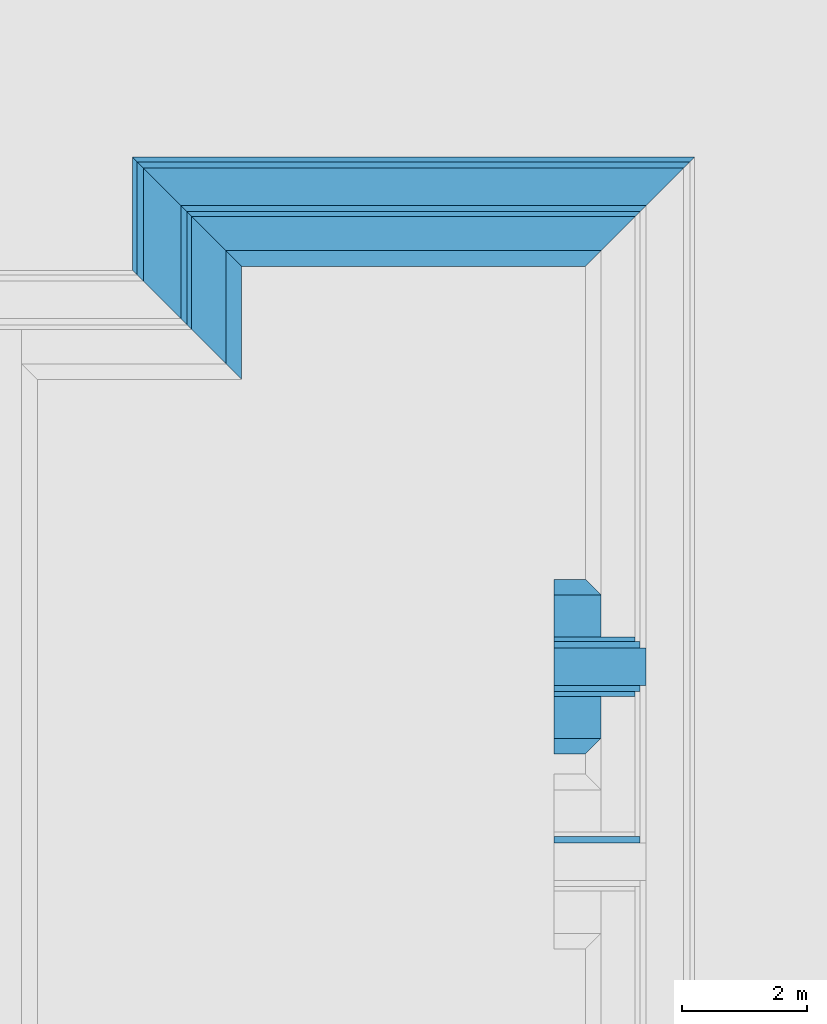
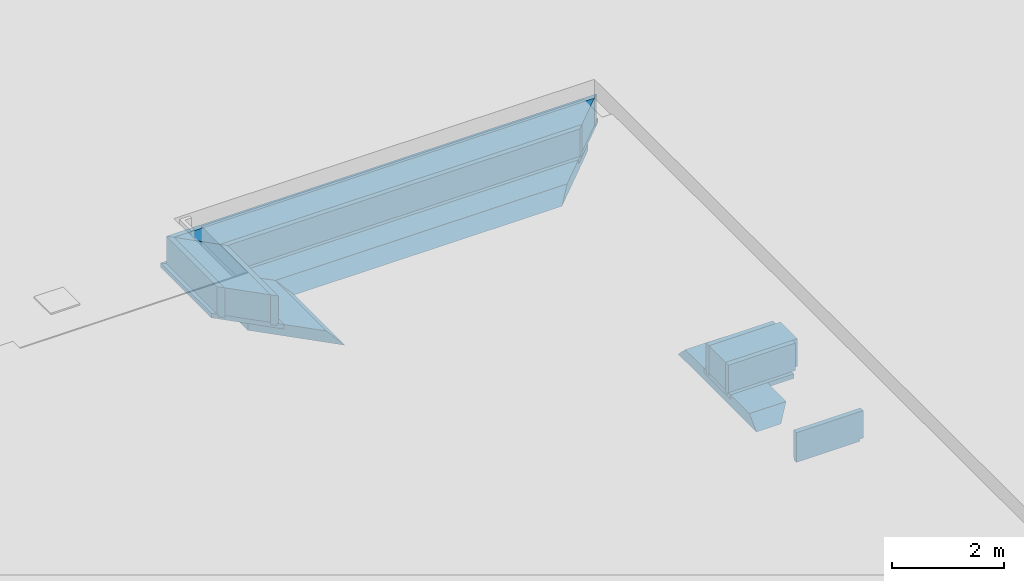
# One storey, part 14 of 15: 16 building element parts, 4 elements without a shape of their own.
"""IFC2X3 building model written with IfcOpenShell, lengths in millimetres."""

from ifc_helpers import new_model, entity, si_unit, converted_unit, derived_unit, money_unit, direction, frame, origin_with_axes, place, context, subcontext, project, spatial, faceted_brep, material, type_object, element, aggregate, save


model = new_model("IFC2X3")

# Units and contexts
model_context = context("Model", 3, precision=0.01, world=origin_with_axes(), true_north=direction((0.0, 1.0)))
plan_context = context("Plan", 3, precision=0.01, world=origin_with_axes(), true_north=direction((0.0, 1.0)))
body_context = subcontext(model_context, "Body", "Model", "MODEL_VIEW")
ifc_project = project(units=[si_unit("LENGTHUNIT", "METRE", prefix="MILLI"), si_unit("AREAUNIT", "SQUARE_METRE"), si_unit("VOLUMEUNIT", "CUBIC_METRE"), converted_unit("PLANEANGLEUNIT", "DEGREE", entity("IfcPlaneAngleMeasure", 0.0174532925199), si_unit("PLANEANGLEUNIT", "RADIAN"), dimensions=[0, 0, 0, 0, 0, 0, 0]), money_unit("EUR"), converted_unit("TIMEUNIT", "Year", entity("IfcTimeMeasure", 31556926.0), si_unit("TIMEUNIT", "SECOND"), dimensions=[0, 0, 1, 0, 0, 0, 0]), si_unit("MASSUNIT", "GRAM", prefix="KILO"), si_unit("THERMODYNAMICTEMPERATUREUNIT", "DEGREE_CELSIUS"), si_unit("LUMINOUSINTENSITYUNIT", "LUMEN"), si_unit("ENERGYUNIT", "JOULE", prefix="MEGA"), derived_unit("THERMALCONDUCTANCEUNIT", [(si_unit("POWERUNIT", "WATT"), 1), (si_unit("LENGTHUNIT", "METRE"), -1), (si_unit("THERMODYNAMICTEMPERATUREUNIT", "KELVIN"), -1)]), derived_unit("SPECIFICHEATCAPACITYUNIT", [(si_unit("ENERGYUNIT", "JOULE"), 1), (si_unit("MASSUNIT", "GRAM", prefix="KILO"), -1), (si_unit("THERMODYNAMICTEMPERATUREUNIT", "KELVIN"), -1)]), derived_unit("MASSDENSITYUNIT", [(si_unit("MASSUNIT", "GRAM", prefix="KILO"), 1), (si_unit("VOLUMEUNIT", "CUBIC_METRE"), -1)])], contexts=[model_context, plan_context])

# Site, building, storey
site_placement = place(None, origin_with_axes())
site = spatial("IfcSite", under=ifc_project, at=site_placement, Name="Site", CompositionType="ELEMENT")
building_placement = place(site_placement, origin_with_axes())
building = spatial("IfcBuilding", under=site, at=building_placement, Name="Naam gebouw", CompositionType="ELEMENT")
storey_placement = place(building_placement, frame((0.0, 0.0, -1050.0), z_axis=(0.0, 0.0, 1.0), x_axis=(1.0, 0.0, 0.0)))
storey = spatial("IfcBuildingStorey", under=building, at=storey_placement, Name="fundering", CompositionType="ELEMENT", Elevation=-1050.0)

# Beam, building element parts
beam_type_1 = type_object("IfcBeamType", Name="Fundering balk IsoBouw Powerkist 2800 x 850", PredefinedType="BEAM")
beam_1_placement = place(storey_placement, frame((54225.0, 39325.0, -60.0000017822), z_axis=(0.0, 0.0, 1.0), x_axis=(0.0, -1.0, 0.0)))
beam_1 = element("IfcBeam", 1, at=beam_1_placement, inside=storey, type_object=beam_type_1, Name="28_Balk-x", ObjectType="BEAM")
ifc_material_1 = material(Name="ALG - TERREIN")
building_element_part_1_placement = place(beam_1_placement, origin_with_axes())
building_element_part_1 = element("IfcBuildingElementPart", 2, at=building_element_part_1_placement, material=ifc_material_1, Name="ALG - TERREIN", context=body_context, shape_type="Brep", body=[
    faceted_brep([(-475.000395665, 754.999964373, 1.98214333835e-07), (-1150.00039795, 754.999964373, -6.16378281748e-07), (-1150.00039795, 0.0, -1.92126834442e-05), (-475.000395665, 0.0, 2.25106189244e-05), (-1400.00037562, 504.999974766, -249.999996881), (-475.000395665, 654.99996234, -100.000009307), (475.000395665, 654.99996234, -100.000009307), (475.000395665, 754.999964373, 1.34467881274e-06), (1150.00039795, 754.999964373, 2.15927142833e-06), (1400.00037562, 504.999974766, -249.999996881), (-1400.00037562, 0.0, -249.999996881), (1400.00037562, 0.0, -249.999996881), (1150.00039795, 0.0, -1.92126834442e-05), (475.000395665, 0.0, 2.25106189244e-05), (475.000395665, 0.0, -100.00001028), (-475.000395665, 0.0, -100.00001028)], [[[0, 1, 2, 3]], [[4, 1, 0, 5, 6, 7, 8, 9]], [[1, 4, 10, 2]], [[11, 12, 13, 14, 15, 3, 2, 10]], [[5, 0, 3, 15]], [[6, 5, 15, 14]], [[7, 6, 14, 13]], [[8, 7, 13, 12]], [[9, 8, 12, 11]], [[4, 9, 11, 10]]]),
])
ifc_material_2 = material(Name="Isolatie - EPS")
building_element_part_2_placement = place(beam_1_placement, origin_with_axes())
building_element_part_2 = element("IfcBuildingElementPart", 3, at=building_element_part_2_placement, material=ifc_material_2, Name="Isolatie - EPS", context=body_context, shape_type="Brep", body=[
    faceted_brep([(-400.000361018, 1304.99997477, 7.15338899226e-07), (-475.000375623, 1304.99997477, 7.15338899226e-07), (-475.000375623, 0.0, 8.43651903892e-06), (-400.000361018, 0.0, 8.43651903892e-06), (-475.000375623, 1304.99997477, -99.9999968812), (-380.000371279, 1304.99997477, 7.15338899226e-07), (-380.000371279, 1304.99997477, -49.0824435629), (-300.000369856, 1304.99997477, -49.0824435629), (-300.000369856, 1304.99997477, 7.15338899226e-07), (300.000369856, 1304.99997477, 7.15338899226e-07), (300.000369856, 1304.99997477, -49.0824435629), (380.000371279, 1304.99997477, -49.0824435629), (380.000371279, 1304.99997477, 7.15338899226e-07), (400.000361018, 1304.99997477, 7.15338899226e-07), (475.000375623, 1304.99997477, 7.15338899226e-07), (475.000375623, 1304.99997477, -99.9999968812), (-475.000375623, 0.0, -99.9999968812), (475.000375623, 0.0, 8.43651926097e-06), (400.000361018, 0.0, 8.43651903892e-06), (380.000371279, 0.0, 8.43651903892e-06), (380.000371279, 0.0, -49.0824435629), (300.000369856, 0.0, -49.0824435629), (300.000369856, 0.0, 8.43651903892e-06), (-300.000369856, 0.0, 8.43651903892e-06), (-300.000369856, 0.0, -49.0824435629), (-380.000371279, 0.0, -49.0824435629), (-380.000371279, 0.0, 8.43651903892e-06), (475.000375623, 0.0, -99.9999968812)], [[[0, 1, 2, 3]], [[4, 1, 0, 5, 6, 7, 8, 9, 10, 11, 12, 13, 14, 15]], [[1, 4, 16, 2]], [[17, 18, 19, 20, 21, 22, 23, 24, 25, 26, 3, 2, 16, 27]], [[5, 0, 3, 26]], [[6, 5, 26, 25]], [[7, 6, 25, 24]], [[8, 7, 24, 23]], [[9, 8, 23, 22]], [[10, 9, 22, 21]], [[11, 10, 21, 20]], [[12, 11, 20, 19]], [[13, 12, 19, 18]], [[14, 13, 18, 17]], [[15, 14, 17, 27]], [[4, 15, 27, 16]]]),
])
building_element_part_3_placement = place(beam_1_placement, origin_with_axes())
building_element_part_3 = element("IfcBuildingElementPart", 4, at=building_element_part_3_placement, material=ifc_material_2, Name="Isolatie - EPS", context=body_context, shape_type="Brep", body=[
    faceted_brep([(-300.00036966, 0.0, 600.000004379), (-300.00036966, 1379.99998712, 600.000000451), (-400.000366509, 1379.99998712, 600.000000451), (-400.000366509, 0.0, 600.000004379), (-300.00036966, 1304.99997477, 7.15338899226e-07), (-300.00036966, 1379.99998712, 7.15338899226e-07), (-300.00036966, 0.0, -49.0824424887), (-300.00036966, 1304.99997477, -49.0824424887), (-400.000366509, 1379.99998712, 7.15338899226e-07), (-400.000366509, 0.0, 2.4249691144e-06), (-380.000369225, 0.0, 2.4249691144e-06), (-380.000369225, 0.0, -49.0824424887), (-380.000369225, 1304.99997477, 7.15338899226e-07), (-380.000369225, 1304.99997477, -49.0824424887)], [[[0, 1, 2, 3]], [[4, 5, 1, 0, 6, 7]], [[5, 8, 2, 1]], [[3, 2, 8, 9]], [[6, 0, 3, 9, 10, 11]], [[9, 8, 5, 4, 12, 10]], [[11, 13, 7, 6]], [[7, 13, 12, 4]], [[10, 12, 13, 11]]]),
])
building_element_part_4_placement = place(beam_1_placement, origin_with_axes())
building_element_part_4 = element("IfcBuildingElementPart", 5, at=building_element_part_4_placement, material=ifc_material_2, Name="Isolatie - EPS", context=body_context, shape_type="Brep", body=[
    faceted_brep([(400.000366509, 0.0, 600.000004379), (400.000366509, 1379.99998712, 600.000000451), (300.00036966, 1379.99998712, 600.000000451), (300.00036966, 0.0, 600.000004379), (400.000366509, 0.0, 2.4249691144e-06), (400.000366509, 1379.99998712, 7.15338899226e-07), (300.00036966, 1379.99998712, 7.15338899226e-07), (300.00036966, 1304.99997477, 7.15338899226e-07), (300.00036966, 1304.99997477, -49.0824424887), (300.00036966, 0.0, -49.0824424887), (380.000369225, 0.0, -49.0824424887), (380.000369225, 0.0, 2.4249691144e-06), (380.000369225, 1304.99997477, 7.15338899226e-07), (380.000369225, 1304.99997477, -49.0824424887)], [[[0, 1, 2, 3]], [[4, 5, 1, 0]], [[5, 6, 2, 1]], [[6, 7, 8, 9, 3, 2]], [[10, 11, 4, 0, 3, 9]], [[7, 6, 5, 4, 11, 12]], [[13, 8, 7, 12]], [[9, 8, 13, 10]], [[10, 13, 12, 11]]]),
])
ifc_material_3 = material(Name="Beton gewapend C")
building_element_part_5_placement = place(beam_1_placement, origin_with_axes())
building_element_part_5 = element("IfcBuildingElementPart", 6, at=building_element_part_5_placement, material=ifc_material_3, Name="Beton gewapend C", context=body_context, shape_type="Brep", body=[
    faceted_brep([(300.000372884, 0.0, 600.0), (300.000372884, 1479.99997751, 600.000001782), (-300.000372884, 1479.99997751, 600.000001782), (-300.000372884, 0.0, 600.0), (300.000372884, 0.0, 0.0), (300.000372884, 1479.99997751, 1.78216552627e-06), (-300.000372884, 1479.99997751, 1.78216552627e-06), (-300.000372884, 0.0, 0.0)], [[[0, 1, 2, 3]], [[4, 5, 1, 0]], [[5, 6, 2, 1]], [[3, 2, 6, 7]], [[3, 7, 4, 0]], [[7, 6, 5, 4]]]),
])
aggregate(beam_1, [building_element_part_1, building_element_part_2, building_element_part_3, building_element_part_4, building_element_part_5])

beam_type_2 = type_object("IfcBeamType", Name="Fundering balk IsoBouw Powerkist buitenwand 1750 x 850", PredefinedType="BEAM")
beam_2_placement = place(storey_placement, frame((47924.9996272, 47036.9930537, -60.0000017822), z_axis=(0.0, 0.0, 1.0), x_axis=(8.39208285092e-07, -1.0, 0.0)))
beam_2 = element("IfcBeam", 7, at=beam_2_placement, inside=storey, type_object=beam_type_2, Name="28_Balk-x", ObjectType="BEAM")
building_element_part_6_placement = place(beam_2_placement, origin_with_axes())
building_element_part_6 = element("IfcBuildingElementPart", 8, at=building_element_part_6_placement, material=ifc_material_1, Name="ALG - TERREIN", context=body_context, shape_type="Brep", body=[
    faceted_brep([(1045.00001313, 7054.99946016, -7.27431315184e-06), (495.000015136, 7604.99991972, -7.27431315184e-06), (495.000015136, 494.999726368, -7.27431315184e-06), (1045.00001313, 1044.99940351, -7.27431315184e-06), (1295.00000274, 6804.99926075, -249.999996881), (20.0000061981, 8080.00032728, -249.999996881), (20.0000061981, 8080.00032728, -99.9999926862), (495.000015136, 7604.99991972, -99.9999926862), (495.000015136, 494.999726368, -99.9999926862), (20.0000061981, 19.9999945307, -99.9999926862), (20.0000061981, 19.9999945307, -249.999996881), (1295.00000274, 1294.99924728, -249.999996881)], [[[0, 1, 2, 3]], [[0, 4, 5, 6, 7, 1]], [[1, 7, 8, 2]], [[3, 2, 8, 9, 10, 11]], [[4, 0, 3, 11]], [[5, 4, 11, 10]], [[6, 5, 10, 9]], [[7, 6, 9, 8]]]),
])
building_element_part_7_placement = place(beam_2_placement, origin_with_axes())
building_element_part_7 = element("IfcBuildingElementPart", 9, at=building_element_part_7_placement, material=ifc_material_2, Name="Isolatie - EPS", context=body_context, shape_type="Brep", body=[
    faceted_brep([(400.000002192, 7700.00001239, 7.15338899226e-07), (400.000002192, 7700.00001239, -49.0824410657), (400.000002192, 399.999768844, -49.0824410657), (400.000002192, 399.999768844, 7.15338899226e-07), (419.999990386, 7680.00000741, 7.15338899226e-07), (495.00000274, 7604.99993211, 7.15338899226e-07), (495.00000274, 7604.99993211, -99.9999968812), (20.0000061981, 8080.00032728, -99.9999926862), (-455.00000274, 8555.00073484, -99.9999968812), (-455.00000274, 8555.00073484, 7.15338899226e-07), (-379.999990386, 8480.00065955, 7.15338899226e-07), (-360.000002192, 8460.00065457, 7.15338899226e-07), (-360.000002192, 8460.00065457, -49.0824410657), (-279.99999279, 8380.00057803, -49.0824410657), (-279.99999279, 8380.00057803, 7.15338899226e-07), (319.99999279, 7780.00008892, 7.15338899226e-07), (319.99999279, 7780.00008892, -49.0824410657), (319.99999279, 319.999806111, -49.0824410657), (319.99999279, 319.999806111, 7.15338899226e-07), (-279.99999279, -279.999829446, 7.15338899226e-07), (-279.99999279, -279.999829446, -49.0824410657), (-360.000002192, -359.999792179, -49.0824410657), (-360.000002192, -359.999792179, 7.15338899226e-07), (-379.999990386, -379.999768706, 7.15338899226e-07), (-455.00000274, -454.999737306, 7.15338899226e-07), (-455.00000274, -454.999737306, -99.9999968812), (20.0000061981, 19.9999945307, -99.9999926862), (495.00000274, 494.999713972, -99.9999968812), (495.00000274, 494.999713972, 7.15338899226e-07), (419.999990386, 419.999745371, 7.15338899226e-07)], [[[0, 1, 2, 3]], [[0, 4, 5, 6, 7, 8, 9, 10, 11, 12, 13, 14, 15, 16, 1]], [[1, 16, 17, 2]], [[3, 2, 17, 18, 19, 20, 21, 22, 23, 24, 25, 26, 27, 28, 29]], [[4, 0, 3, 29]], [[5, 4, 29, 28]], [[6, 5, 28, 27]], [[7, 6, 27, 26]], [[8, 7, 26, 25]], [[9, 8, 25, 24]], [[10, 9, 24, 23]], [[11, 10, 23, 22]], [[12, 11, 22, 21]], [[13, 12, 21, 20]], [[14, 13, 20, 19]], [[15, 14, 19, 18]], [[16, 15, 18, 17]]]),
])
building_element_part_8_placement = place(beam_2_placement, origin_with_axes())
building_element_part_8 = element("IfcBuildingElementPart", 10, at=building_element_part_8_placement, material=ifc_material_2, Name="Isolatie - EPS", context=body_context, shape_type="Brep", body=[
    faceted_brep([(-379.999993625, 8480.00066279, 2.28759100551e-06), (-359.999996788, 8460.00064916, 2.28759100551e-06), (-359.999996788, -359.999786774, 2.28759100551e-06), (-379.999993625, -379.999771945, 2.28759100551e-06), (-379.999993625, 8480.00066279, 600.000001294), (-279.999999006, 8380.00058425, 600.000001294), (-279.999999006, 8380.00058425, -49.0824424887), (-359.999996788, 8460.00064916, -49.0824424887), (-359.999996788, -359.999786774, -49.0824424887), (-279.999999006, -279.999835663, -49.0824424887), (-279.999999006, -279.999835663, 600.000001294), (-379.999993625, -379.999771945, 600.000001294)], [[[0, 1, 2, 3]], [[0, 4, 5, 6, 7, 1]], [[1, 7, 8, 2]], [[3, 2, 8, 9, 10, 11]], [[4, 0, 3, 11]], [[5, 4, 11, 10]], [[6, 5, 10, 9]], [[7, 6, 9, 8]]]),
])
building_element_part_9_placement = place(beam_2_placement, origin_with_axes())
building_element_part_9 = element("IfcBuildingElementPart", 11, at=building_element_part_9_placement, material=ifc_material_2, Name="Isolatie - EPS", context=body_context, shape_type="Brep", body=[
    faceted_brep([(419.999993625, 419.99974861, 600.000003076), (419.999993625, 7680.00000417, 600.000003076), (319.999999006, 7780.00008271, 600.000003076), (319.999999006, 319.999812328, 600.000003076), (419.999993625, 419.99974861, 4.06975675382e-06), (419.999993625, 7680.00000417, 4.06975675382e-06), (399.999996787, 7700.00001779, 4.06975675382e-06), (399.999996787, 7700.00001779, -49.0824407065), (319.999999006, 7780.00008271, -49.0824407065), (319.999999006, 319.999812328, -49.0824407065), (399.999996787, 399.99976344, -49.0824407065), (399.999996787, 399.99976344, 4.06975675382e-06)], [[[0, 1, 2, 3]], [[4, 5, 1, 0]], [[2, 1, 5, 6, 7, 8]], [[3, 2, 8, 9]], [[4, 0, 3, 9, 10, 11]], [[11, 6, 5, 4]], [[10, 7, 6, 11]], [[9, 8, 7, 10]]]),
])
building_element_part_10_placement = place(beam_2_placement, origin_with_axes())
building_element_part_10 = element("IfcBuildingElementPart", 12, at=building_element_part_10_placement, material=ifc_material_3, Name="Beton gewapend C", context=body_context, shape_type="Brep", body=[
    faceted_brep([(320.0, 319.999813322, 600.000001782), (320.0, 7780.00008171, 600.000001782), (-280.0, 8380.00058524, 600.0), (-280.0, -279.999836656, 600.0), (320.0, 319.999813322, 1.78216552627e-06), (320.0, 7780.00008171, 1.78216552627e-06), (-280.0, 8380.00058524, 0.0), (-280.0, -279.999836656, 0.0)], [[[0, 1, 2, 3]], [[4, 5, 1, 0]], [[2, 1, 5, 6]], [[3, 2, 6, 7]], [[4, 0, 3, 7]], [[7, 6, 5, 4]]]),
])
aggregate(beam_2, [building_element_part_6, building_element_part_7, building_element_part_8, building_element_part_9, building_element_part_10])

# Beam, building element part
beam_3_placement = place(storey_placement, frame((54225.0, 36200.0, -60.0000017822), z_axis=(0.0, 0.0, 1.0), x_axis=(0.0, -1.0, 0.0)))
beam_3 = element("IfcBeam", 13, at=beam_3_placement, inside=storey, type_object=beam_type_1, Name="28_Balk-x", ObjectType="BEAM")
building_element_part_11_placement = place(beam_3_placement, origin_with_axes())
building_element_part_11 = element("IfcBuildingElementPart", 14, at=building_element_part_11_placement, material=ifc_material_2, Name="Isolatie - EPS", context=body_context, shape_type="Brep", body=[
    faceted_brep([(-300.00036966, 0.0, 600.000004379), (-300.00036966, 1379.99998712, 600.000000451), (-400.000366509, 1379.99998712, 600.000000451), (-400.000366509, 0.0, 600.000004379), (-300.00036966, 1304.99997477, 7.15338899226e-07), (-300.00036966, 1379.99998712, 7.15338899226e-07), (-300.00036966, 0.0, -49.0824424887), (-300.00036966, 1304.99997477, -49.0824424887), (-400.000366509, 1379.99998712, 7.15338899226e-07), (-400.000366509, 0.0, 2.4249691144e-06), (-380.000369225, 0.0, 2.4249691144e-06), (-380.000369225, 0.0, -49.0824424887), (-380.000369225, 1304.99997477, 7.15338899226e-07), (-380.000369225, 1304.99997477, -49.0824424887)], [[[0, 1, 2, 3]], [[4, 5, 1, 0, 6, 7]], [[5, 8, 2, 1]], [[3, 2, 8, 9]], [[6, 0, 3, 9, 10, 11]], [[9, 8, 5, 4, 12, 10]], [[11, 13, 7, 6]], [[7, 13, 12, 4]], [[10, 12, 13, 11]]]),
])
aggregate(beam_3, [building_element_part_11])

# Beam, building element parts
beam_4_placement = place(storey_placement, frame((47925.0001092, 45153.0, -60.0000017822), z_axis=(0.0, 0.0, 1.0), x_axis=(1.0, 2.55838259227e-07, 0.0)))
beam_4 = element("IfcBeam", 15, at=beam_4_placement, inside=storey, type_object=beam_type_2, Name="28_Balk-x", ObjectType="BEAM")
building_element_part_12_placement = place(beam_4_placement, origin_with_axes())
building_element_part_12 = element("IfcBuildingElementPart", 16, at=building_element_part_12_placement, material=ifc_material_1, Name="ALG - TERREIN", context=body_context, shape_type="Brep", body=[
    faceted_brep([(1045.00001313, 838.993650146, -7.27431315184e-06), (495.000015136, 1388.99332729, -7.27431315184e-06), (495.000015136, -425.000141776, -7.27431315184e-06), (1045.00001313, -975.000280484, -7.27431315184e-06), (1295.00000274, 588.993806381, -249.999996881), (20.0000061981, 1863.99305913, -249.999996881), (20.0000061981, 1863.99305913, -99.9999926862), (495.000015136, 1388.99332729, -99.9999926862), (495.000015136, -425.000141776, -99.9999926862), (20.0000061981, 49.9999886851, -99.9999926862), (20.0000061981, 49.9999886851, -249.999996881), (1295.00000274, -1225.00033405, -249.999996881)], [[[0, 1, 2, 3]], [[0, 4, 5, 6, 7, 1]], [[1, 7, 8, 2]], [[3, 2, 8, 9, 10, 11]], [[4, 0, 3, 11]], [[5, 4, 11, 10]], [[6, 5, 10, 9]], [[7, 6, 9, 8]]]),
])
building_element_part_13_placement = place(beam_4_placement, origin_with_axes())
building_element_part_13 = element("IfcBuildingElementPart", 17, at=building_element_part_13_placement, material=ifc_material_2, Name="Isolatie - EPS", context=body_context, shape_type="Brep", body=[
    faceted_brep([(400.000002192, 1483.99328481, 7.15338899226e-07), (400.000002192, 1483.99328481, -49.0824410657), (400.000002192, -330.000104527, -49.0824410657), (400.000002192, -330.000104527, 7.15338899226e-07), (419.999990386, 1463.99330829, 7.15338899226e-07), (495.00000274, 1388.99333969, 7.15338899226e-07), (495.00000274, 1388.99333969, -99.9999968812), (20.0000061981, 1863.99305913, -99.9999926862), (-455.00000274, 2338.99279096, -99.9999968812), (-455.00000274, 2338.99279096, 7.15338899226e-07), (-379.999990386, 2263.99282236, 7.15338899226e-07), (-360.000002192, 2243.99284584, 7.15338899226e-07), (-360.000002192, 2243.99284584, -49.0824410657), (-279.99999279, 2163.9928831, -49.0824410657), (-279.99999279, 2163.9928831, 7.15338899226e-07), (319.99999279, 1563.99324755, 7.15338899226e-07), (319.99999279, 1563.99324755, -49.0824410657), (319.99999279, -250.000074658, -49.0824410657), (319.99999279, -250.000074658, 7.15338899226e-07), (-279.99999279, 350.000064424, 7.15338899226e-07), (-279.99999279, 350.000064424, -49.0824410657), (-360.000002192, 430.000094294, -49.0824410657), (-360.000002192, 430.000094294, 7.15338899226e-07), (-379.999990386, 450.000087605, 7.15338899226e-07), (-455.00000274, 525.000119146, 7.15338899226e-07), (-455.00000274, 525.000119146, -99.9999968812), (20.0000061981, 49.9999886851, -99.9999926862), (495.00000274, -425.00012938, -99.9999968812), (495.00000274, -425.00012938, 7.15338899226e-07), (419.999990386, -350.000097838, 7.15338899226e-07)], [[[0, 1, 2, 3]], [[0, 4, 5, 6, 7, 8, 9, 10, 11, 12, 13, 14, 15, 16, 1]], [[1, 16, 17, 2]], [[3, 2, 17, 18, 19, 20, 21, 22, 23, 24, 25, 26, 27, 28, 29]], [[4, 0, 3, 29]], [[5, 4, 29, 28]], [[6, 5, 28, 27]], [[7, 6, 27, 26]], [[8, 7, 26, 25]], [[9, 8, 25, 24]], [[10, 9, 24, 23]], [[11, 10, 23, 22]], [[12, 11, 22, 21]], [[13, 12, 21, 20]], [[14, 13, 20, 19]], [[15, 14, 19, 18]], [[16, 15, 18, 17]]]),
])
building_element_part_14_placement = place(beam_4_placement, origin_with_axes())
building_element_part_14 = element("IfcBuildingElementPart", 18, at=building_element_part_14_placement, material=ifc_material_2, Name="Isolatie - EPS", context=body_context, shape_type="Brep", body=[
    faceted_brep([(-379.999993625, 450.000090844, 2.28759100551e-06), (-379.999993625, 2263.9928256, 2.28759100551e-06), (-359.999996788, 2243.99284043, 2.28759100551e-06), (-359.999996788, 430.000088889, 2.28759100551e-06), (-379.999993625, 450.000090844, 600.000001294), (-379.999993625, 2263.9928256, 600.000001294), (-279.999999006, 2163.99288932, 600.000001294), (-279.999999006, 2163.99288932, -49.0824424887), (-359.999996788, 2243.99284043, -49.0824424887), (-359.999996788, 430.000088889, -49.0824424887), (-279.999999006, 350.000070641, -49.0824424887), (-279.999999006, 350.000070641, 600.000001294)], [[[0, 1, 2, 3]], [[4, 5, 1, 0]], [[2, 1, 5, 6, 7, 8]], [[3, 2, 8, 9]], [[4, 0, 3, 9, 10, 11]], [[11, 6, 5, 4]], [[10, 7, 6, 11]], [[9, 8, 7, 10]]]),
])
building_element_part_15_placement = place(beam_4_placement, origin_with_axes())
building_element_part_15 = element("IfcBuildingElementPart", 19, at=building_element_part_15_placement, material=ifc_material_2, Name="Isolatie - EPS", context=body_context, shape_type="Brep", body=[
    faceted_brep([(419.999993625, -350.000101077, 600.000003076), (419.999993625, 1463.99330505, 600.000003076), (319.999999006, 1563.99324133, 600.000003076), (319.999999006, -250.000080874, 600.000003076), (419.999993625, -350.000101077, 4.06975675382e-06), (419.999993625, 1463.99330505, 4.06975675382e-06), (399.999996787, 1483.99329022, 4.06975675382e-06), (399.999996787, 1483.99329022, -49.0824407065), (319.999999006, 1563.99324133, -49.0824407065), (319.999999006, -250.000080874, -49.0824407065), (399.999996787, -330.000099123, -49.0824407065), (399.999996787, -330.000099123, 4.06975675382e-06)], [[[0, 1, 2, 3]], [[4, 5, 1, 0]], [[2, 1, 5, 6, 7, 8]], [[3, 2, 8, 9]], [[4, 0, 3, 9, 10, 11]], [[11, 6, 5, 4]], [[10, 7, 6, 11]], [[9, 8, 7, 10]]]),
])
building_element_part_16_placement = place(beam_4_placement, origin_with_axes())
building_element_part_16 = element("IfcBuildingElementPart", 20, at=building_element_part_16_placement, material=ifc_material_3, Name="Beton gewapend C", context=body_context, shape_type="Brep", body=[
    faceted_brep([(320.0, -250.000081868, 600.000001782), (320.0, 1563.99324034, 600.000001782), (-280.0, 2163.99289031, 600.0), (-280.0, 350.000071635, 600.0), (320.0, -250.000081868, 1.78216552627e-06), (320.0, 1563.99324034, 1.78216552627e-06), (-280.0, 2163.99289031, 0.0), (-280.0, 350.000071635, 0.0)], [[[0, 1, 2, 3]], [[4, 5, 1, 0]], [[2, 1, 5, 6]], [[3, 2, 6, 7]], [[4, 0, 3, 7]], [[7, 6, 5, 4]]]),
])
aggregate(beam_4, [building_element_part_12, building_element_part_13, building_element_part_14, building_element_part_15, building_element_part_16])

save(model, "model.ifc")
